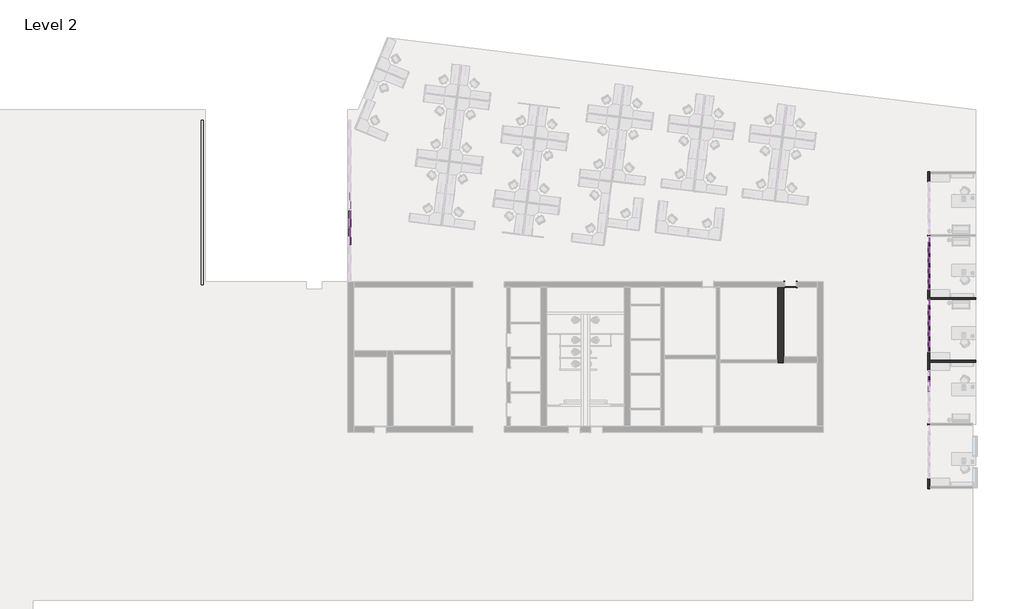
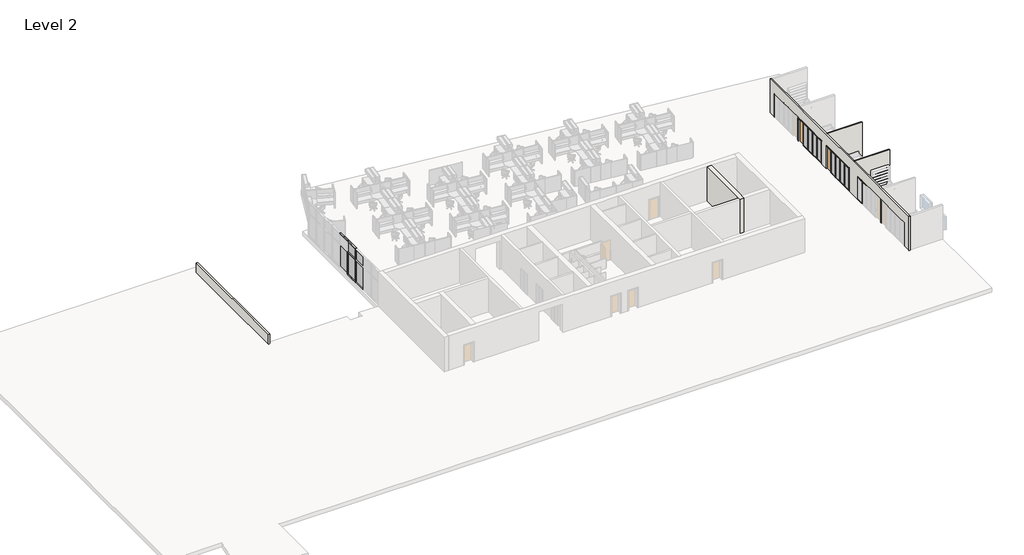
# One storey, part 3 of 7: 63 members, 23 plates, 7 walls, 3 doors.
"""IFC4 building model written with IfcOpenShell, lengths in millimetres."""

from ifc_helpers import new_model, si_unit, frame, origin, place, context, project, spatial, polyline, outline, extrude, faceted_brep, transform, mapped, element, save
from components import curtain_wall_sgl_glass_curtain_wall_sgl_glass_683140d0, door_3c99239a, member_9597caa3, member_b2bde9e6, member_7ffbafd8, member_47ea2df9, member_5507c937, member_0e55f5ff, member_ee409385, member_6d48148e, member_7899ddbe, member_c64c2408, member_866a01fa, member_13474e0d, system_panel_glazed_8093bbd9, system_panel_glazed_50fd444c, system_panel_glazed_f79f5f4b, system_panel_glazed_e5c5d69c

model = new_model("IFC4")

# Units and contexts
model_context = context("Model", 3, world=origin())
ifc_project = project(units=[si_unit("LENGTHUNIT", "METRE", prefix="MILLI")], contexts=[model_context])

# Site, building, storey
site = spatial("IfcSite", under=ifc_project)
building = spatial("IfcBuilding", under=site)
storey = spatial("IfcBuildingStorey", under=building, Name="Level 2", Elevation=3657.6)

# Doors
placement = place(None, origin())
curtain_wall_sgl_glass_curtain_wall_sgl_glass_shape = curtain_wall_sgl_glass_curtain_wall_sgl_glass_683140d0(model_context)
element("IfcDoor", 1, ObjectType="Curtain Wall Sgl Glass : Curtain Wall Sgl Glass", at=placement, inside=storey, context=model_context, shape_type="MappedRepresentation", body=[
    mapped(curtain_wall_sgl_glass_curtain_wall_sgl_glass_shape, transform((11449.2054088, -211.6299475, 3657.6), x_axis=(0.0, 1.0, 0.0), y_axis=(-1.0, 0.0, 0.0), z_axis=(0.0, 0.0, 1.0))),
])
element("IfcDoor", 2, ObjectType="Curtain Wall Sgl Glass : Curtain Wall Sgl Glass", at=placement, inside=storey, context=model_context, shape_type="MappedRepresentation", body=[
    mapped(curtain_wall_sgl_glass_curtain_wall_sgl_glass_shape, transform((11449.2054088, -5046.1342481, 3657.6), x_axis=(0.0, 1.0, 0.0), y_axis=(-1.0, 0.0, 0.0), z_axis=(0.0, 0.0, 1.0))),
])
door_shape = door_3c99239a(model_context)
element("IfcDoor", 3, ObjectType="Single-Flush : 36\" x 84\"", at=placement, inside=storey, context=model_context, shape_type="MappedRepresentation", body=[
    mapped(door_shape, transform((817.7000645, -3469.6103492, 3657.6), x_axis=(-1.0, 0.0, 0.0), y_axis=(0.0, -1.0, 0.0), z_axis=(0.0, 0.0, 1.0))),
])

# Members
member_shape = member_9597caa3(model_context)
element("IfcMember", 4, ObjectType="Rectangular Mullion : 2.5\" x 5\" rectangular", at=placement, inside=storey, context=model_context, shape_type="MappedRepresentation", body=[
    mapped(member_shape, transform((11449.2054088, -10900.0628492, 3721.1), x_axis=(0.0, 1.0, 0.0), y_axis=(1.0, 0.0, 0.0), z_axis=(0.0, 0.0, -1.0))),
])
element("IfcMember", 5, ObjectType="Rectangular Mullion : 2.5\" x 5\" rectangular", at=placement, inside=storey, context=model_context, shape_type="MappedRepresentation", body=[
    mapped(member_shape, transform((-33055.0142212, 2267.9674286, 3721.1), x_axis=(0.0, -1.0, 0.0), y_axis=(-1.0, 0.0, 0.0), z_axis=(0.0, 0.0, -1.0))),
])
element("IfcMember", 6, ObjectType="Rectangular Mullion : 2.5\" x 5\" rectangular", at=placement, inside=storey, context=model_context, shape_type="MappedRepresentation", body=[
    mapped(member_shape, transform((-33055.0142212, 890.7229841, 3721.1), x_axis=(0.0, -1.0, 0.0), y_axis=(-1.0, 0.0, 0.0), z_axis=(0.0, 0.0, -1.0))),
])
element("IfcMember", 7, ObjectType="Rectangular Mullion : 2.5\" x 5\" rectangular", at=placement, inside=storey, context=model_context, shape_type="MappedRepresentation", body=[
    mapped(member_shape, transform((11449.2054088, -612.9499475, 3721.1), x_axis=(0.0, -1.0, 0.0), y_axis=(-1.0, 0.0, 0.0), z_axis=(0.0, 0.0, -1.0))),
])
element("IfcMember", 8, ObjectType="Rectangular Mullion : 2.5\" x 5\" rectangular", at=placement, inside=storey, context=model_context, shape_type="MappedRepresentation", body=[
    mapped(member_shape, transform((11449.2054088, -1415.5899475, 3721.1), x_axis=(0.0, -1.0, 0.0), y_axis=(-1.0, 0.0, 0.0), z_axis=(0.0, 0.0, -1.0))),
])
element("IfcMember", 9, ObjectType="Rectangular Mullion : 2.5\" x 5\" rectangular", at=placement, inside=storey, context=model_context, shape_type="MappedRepresentation", body=[
    mapped(member_shape, transform((11449.2054088, -2218.2299475, 3721.1), x_axis=(0.0, -1.0, 0.0), y_axis=(-1.0, 0.0, 0.0), z_axis=(0.0, 0.0, -1.0))),
])
element("IfcMember", 10, ObjectType="Rectangular Mullion : 2.5\" x 5\" rectangular", at=placement, inside=storey, context=model_context, shape_type="MappedRepresentation", body=[
    mapped(member_shape, transform((11449.2054088, -3020.8699475, 3721.1), x_axis=(0.0, -1.0, 0.0), y_axis=(-1.0, 0.0, 0.0), z_axis=(0.0, 0.0, -1.0))),
])
element("IfcMember", 11, ObjectType="Rectangular Mullion : 2.5\" x 5\" rectangular", at=placement, inside=storey, context=model_context, shape_type="MappedRepresentation", body=[
    mapped(member_shape, transform((11449.2054088, -5447.4542481, 3721.1), x_axis=(0.0, -1.0, 0.0), y_axis=(-1.0, 0.0, 0.0), z_axis=(0.0, 0.0, -1.0))),
])
element("IfcMember", 12, ObjectType="Rectangular Mullion : 2.5\" x 5\" rectangular", at=placement, inside=storey, context=model_context, shape_type="MappedRepresentation", body=[
    mapped(member_shape, transform((11449.2054088, -6250.0942481, 3721.1), x_axis=(0.0, -1.0, 0.0), y_axis=(-1.0, 0.0, 0.0), z_axis=(0.0, 0.0, -1.0))),
])
element("IfcMember", 13, ObjectType="Rectangular Mullion : 2.5\" x 5\" rectangular", at=placement, inside=storey, context=model_context, shape_type="MappedRepresentation", body=[
    mapped(member_shape, transform((11449.2054088, -7052.7342481, 3721.1), x_axis=(0.0, -1.0, 0.0), y_axis=(-1.0, 0.0, 0.0), z_axis=(0.0, 0.0, -1.0))),
])
element("IfcMember", 14, ObjectType="Rectangular Mullion : 2.5\" x 5\" rectangular", at=placement, inside=storey, context=model_context, shape_type="MappedRepresentation", body=[
    mapped(member_shape, transform((11449.2054088, -7855.3742481, 3721.1), x_axis=(0.0, -1.0, 0.0), y_axis=(-1.0, 0.0, 0.0), z_axis=(0.0, 0.0, -1.0))),
])
member_2_shape = member_b2bde9e6(model_context)
element("IfcMember", 15, ObjectType="Rectangular Mullion : 2.5\" x 5\" rectangular", at=placement, inside=storey, context=model_context, shape_type="MappedRepresentation", body=[
    mapped(member_2_shape, transform((11449.2054088, -3855.2599475, 3721.1), x_axis=(0.0, -1.0, 0.0), y_axis=(-1.0, 0.0, 0.0), z_axis=(0.0, 0.0, -1.0))),
])
element("IfcMember", 16, ObjectType="Rectangular Mullion : 2.5\" x 5\" rectangular", at=placement, inside=storey, context=model_context, shape_type="MappedRepresentation", body=[
    mapped(member_2_shape, transform((11449.2054088, -8689.7642481, 3721.1), x_axis=(0.0, -1.0, 0.0), y_axis=(-1.0, 0.0, 0.0), z_axis=(0.0, 0.0, -1.0))),
])
member_3_shape = member_7ffbafd8(model_context)
element("IfcMember", 17, ObjectType="Rectangular Mullion : 2.5\" x 5\" rectangular", at=placement, inside=storey, context=model_context, shape_type="MappedRepresentation", body=[
    mapped(member_3_shape, transform((11449.2054088, -3855.2599475, 6197.6), x_axis=(0.0, 0.0, 1.0), y_axis=(-1.0, 0.0, 0.0), z_axis=(0.0, -1.0, 0.0))),
])
element("IfcMember", 18, ObjectType="Rectangular Mullion : 2.5\" x 5\" rectangular", at=placement, inside=storey, context=model_context, shape_type="MappedRepresentation", body=[
    mapped(member_3_shape, transform((11449.2054088, -8689.7642481, 6197.6), x_axis=(0.0, 0.0, 1.0), y_axis=(-1.0, 0.0, 0.0), z_axis=(0.0, -1.0, 0.0))),
])
element("IfcMember", 19, ObjectType="Rectangular Mullion : 2.5\" x 5\" rectangular", at=placement, inside=storey, context=model_context, shape_type="MappedRepresentation", body=[
    mapped(member_3_shape, transform((11449.2054088, -612.9499475, 6197.6), x_axis=(0.0, 0.0, 1.0), y_axis=(-1.0, 0.0, 0.0), z_axis=(0.0, -1.0, 0.0))),
])
element("IfcMember", 20, ObjectType="Rectangular Mullion : 2.5\" x 5\" rectangular", at=placement, inside=storey, context=model_context, shape_type="MappedRepresentation", body=[
    mapped(member_3_shape, transform((11449.2054088, -5447.4542481, 6197.6), x_axis=(0.0, 0.0, 1.0), y_axis=(-1.0, 0.0, 0.0), z_axis=(0.0, -1.0, 0.0))),
])
element("IfcMember", 21, ObjectType="Rectangular Mullion : 2.5\" x 5\" rectangular", at=placement, inside=storey, context=model_context, shape_type="MappedRepresentation", body=[
    mapped(member_3_shape, transform((11449.2054088, -581.1999475, 3657.6), x_axis=(0.0, 0.0, -1.0), y_axis=(-1.0, 0.0, 0.0), z_axis=(0.0, 1.0, 0.0))),
])
element("IfcMember", 22, ObjectType="Rectangular Mullion : 2.5\" x 5\" rectangular", at=placement, inside=storey, context=model_context, shape_type="MappedRepresentation", body=[
    mapped(member_3_shape, transform((11449.2054088, -5415.7042481, 3657.6), x_axis=(0.0, 0.0, -1.0), y_axis=(-1.0, 0.0, 0.0), z_axis=(0.0, 1.0, 0.0))),
])
member_4_shape = member_47ea2df9(model_context)
element("IfcMember", 23, ObjectType="Rectangular Mullion : 2.5\" x 5\" rectangular", at=placement, inside=storey, context=model_context, shape_type="MappedRepresentation", body=[
    mapped(member_4_shape, transform((11449.2054088, -1415.5899475, 6096.0), x_axis=(0.0, 0.0, 1.0), y_axis=(-1.0, 0.0, 0.0), z_axis=(0.0, -1.0, 0.0))),
])
element("IfcMember", 24, ObjectType="Rectangular Mullion : 2.5\" x 5\" rectangular", at=placement, inside=storey, context=model_context, shape_type="MappedRepresentation", body=[
    mapped(member_4_shape, transform((11449.2054088, -2218.2299475, 6096.0), x_axis=(0.0, 0.0, 1.0), y_axis=(-1.0, 0.0, 0.0), z_axis=(0.0, -1.0, 0.0))),
])
element("IfcMember", 25, ObjectType="Rectangular Mullion : 2.5\" x 5\" rectangular", at=placement, inside=storey, context=model_context, shape_type="MappedRepresentation", body=[
    mapped(member_4_shape, transform((11449.2054088, -3020.8699475, 6096.0), x_axis=(0.0, 0.0, 1.0), y_axis=(-1.0, 0.0, 0.0), z_axis=(0.0, -1.0, 0.0))),
])
element("IfcMember", 26, ObjectType="Rectangular Mullion : 2.5\" x 5\" rectangular", at=placement, inside=storey, context=model_context, shape_type="MappedRepresentation", body=[
    mapped(member_4_shape, transform((11449.2054088, -6250.0942481, 6096.0), x_axis=(0.0, 0.0, 1.0), y_axis=(-1.0, 0.0, 0.0), z_axis=(0.0, -1.0, 0.0))),
])
element("IfcMember", 27, ObjectType="Rectangular Mullion : 2.5\" x 5\" rectangular", at=placement, inside=storey, context=model_context, shape_type="MappedRepresentation", body=[
    mapped(member_4_shape, transform((11449.2054088, -7052.7342481, 6096.0), x_axis=(0.0, 0.0, 1.0), y_axis=(-1.0, 0.0, 0.0), z_axis=(0.0, -1.0, 0.0))),
])
element("IfcMember", 28, ObjectType="Rectangular Mullion : 2.5\" x 5\" rectangular", at=placement, inside=storey, context=model_context, shape_type="MappedRepresentation", body=[
    mapped(member_4_shape, transform((11449.2054088, -7855.3742481, 6096.0), x_axis=(0.0, 0.0, 1.0), y_axis=(-1.0, 0.0, 0.0), z_axis=(0.0, -1.0, 0.0))),
])
member_5_shape = member_5507c937(model_context)
element("IfcMember", 29, ObjectType="Rectangular Mullion : 2.5\" x 5\" rectangular", at=placement, inside=storey, context=model_context, shape_type="MappedRepresentation", body=[
    mapped(member_5_shape, transform((11449.2054088, -1415.5899475, 6197.6), x_axis=(0.0, 0.0, 1.0), y_axis=(-1.0, 0.0, 0.0), z_axis=(0.0, -1.0, 0.0))),
])
element("IfcMember", 30, ObjectType="Rectangular Mullion : 2.5\" x 5\" rectangular", at=placement, inside=storey, context=model_context, shape_type="MappedRepresentation", body=[
    mapped(member_5_shape, transform((11449.2054088, -2218.2299475, 6197.6), x_axis=(0.0, 0.0, 1.0), y_axis=(-1.0, 0.0, 0.0), z_axis=(0.0, -1.0, 0.0))),
])
element("IfcMember", 31, ObjectType="Rectangular Mullion : 2.5\" x 5\" rectangular", at=placement, inside=storey, context=model_context, shape_type="MappedRepresentation", body=[
    mapped(member_5_shape, transform((11449.2054088, -3020.8699475, 6197.6), x_axis=(0.0, 0.0, 1.0), y_axis=(-1.0, 0.0, 0.0), z_axis=(0.0, -1.0, 0.0))),
])
element("IfcMember", 32, ObjectType="Rectangular Mullion : 2.5\" x 5\" rectangular", at=placement, inside=storey, context=model_context, shape_type="MappedRepresentation", body=[
    mapped(member_5_shape, transform((11449.2054088, -6250.0942481, 6197.6), x_axis=(0.0, 0.0, 1.0), y_axis=(-1.0, 0.0, 0.0), z_axis=(0.0, -1.0, 0.0))),
])
element("IfcMember", 33, ObjectType="Rectangular Mullion : 2.5\" x 5\" rectangular", at=placement, inside=storey, context=model_context, shape_type="MappedRepresentation", body=[
    mapped(member_5_shape, transform((11449.2054088, -7052.7342481, 6197.6), x_axis=(0.0, 0.0, 1.0), y_axis=(-1.0, 0.0, 0.0), z_axis=(0.0, -1.0, 0.0))),
])
element("IfcMember", 34, ObjectType="Rectangular Mullion : 2.5\" x 5\" rectangular", at=placement, inside=storey, context=model_context, shape_type="MappedRepresentation", body=[
    mapped(member_5_shape, transform((11449.2054088, -7855.3742481, 6197.6), x_axis=(0.0, 0.0, 1.0), y_axis=(-1.0, 0.0, 0.0), z_axis=(0.0, -1.0, 0.0))),
])
element("IfcMember", 35, ObjectType="Rectangular Mullion : 2.5\" x 5\" rectangular", at=placement, inside=storey, context=model_context, shape_type="MappedRepresentation", body=[
    mapped(member_5_shape, transform((11449.2054088, -1415.5899475, 3657.6), x_axis=(0.0, 0.0, -1.0), y_axis=(-1.0, 0.0, 0.0), z_axis=(0.0, 1.0, 0.0))),
])
element("IfcMember", 36, ObjectType="Rectangular Mullion : 2.5\" x 5\" rectangular", at=placement, inside=storey, context=model_context, shape_type="MappedRepresentation", body=[
    mapped(member_5_shape, transform((11449.2054088, -2218.2299475, 3657.6), x_axis=(0.0, 0.0, -1.0), y_axis=(-1.0, 0.0, 0.0), z_axis=(0.0, 1.0, 0.0))),
])
element("IfcMember", 37, ObjectType="Rectangular Mullion : 2.5\" x 5\" rectangular", at=placement, inside=storey, context=model_context, shape_type="MappedRepresentation", body=[
    mapped(member_5_shape, transform((11449.2054088, -6250.0942481, 3657.6), x_axis=(0.0, 0.0, -1.0), y_axis=(-1.0, 0.0, 0.0), z_axis=(0.0, 1.0, 0.0))),
])
element("IfcMember", 38, ObjectType="Rectangular Mullion : 2.5\" x 5\" rectangular", at=placement, inside=storey, context=model_context, shape_type="MappedRepresentation", body=[
    mapped(member_5_shape, transform((11449.2054088, -7052.7342481, 3657.6), x_axis=(0.0, 0.0, -1.0), y_axis=(-1.0, 0.0, 0.0), z_axis=(0.0, 1.0, 0.0))),
])
element("IfcMember", 39, ObjectType="Rectangular Mullion : 2.5\" x 5\" rectangular", at=placement, inside=storey, context=model_context, shape_type="MappedRepresentation", body=[
    mapped(member_3_shape, transform((11449.2054088, -3020.8699475, 3657.6), x_axis=(0.0, 0.0, -1.0), y_axis=(-1.0, 0.0, 0.0), z_axis=(0.0, 1.0, 0.0))),
])
element("IfcMember", 40, ObjectType="Rectangular Mullion : 2.5\" x 5\" rectangular", at=placement, inside=storey, context=model_context, shape_type="MappedRepresentation", body=[
    mapped(member_3_shape, transform((11449.2054088, -7855.3742481, 3657.6), x_axis=(0.0, 0.0, -1.0), y_axis=(-1.0, 0.0, 0.0), z_axis=(0.0, 1.0, 0.0))),
])
member_6_shape = member_0e55f5ff(model_context)
element("IfcMember", 41, ObjectType="Rectangular Mullion : 2.5\" x 5\" rectangular", at=placement, inside=storey, context=model_context, shape_type="MappedRepresentation", body=[
    mapped(member_6_shape, transform((11449.2054088, -3791.7599475, 6096.0), x_axis=(0.0, 0.0, 1.0), y_axis=(-1.0, 0.0, 0.0), z_axis=(0.0, -1.0, 0.0))),
])
element("IfcMember", 42, ObjectType="Rectangular Mullion : 2.5\" x 5\" rectangular", at=placement, inside=storey, context=model_context, shape_type="MappedRepresentation", body=[
    mapped(member_6_shape, transform((11449.2054088, -8626.2642481, 6096.0), x_axis=(0.0, 0.0, 1.0), y_axis=(-1.0, 0.0, 0.0), z_axis=(0.0, -1.0, 0.0))),
])
element("IfcMember", 43, ObjectType="Rectangular Mullion : 2.5\" x 5\" rectangular", at=placement, inside=storey, context=model_context, shape_type="MappedRepresentation", body=[
    mapped(member_6_shape, transform((11449.2054088, -612.9499475, 6096.0), x_axis=(0.0, 0.0, 1.0), y_axis=(-1.0, 0.0, 0.0), z_axis=(0.0, -1.0, 0.0))),
])
element("IfcMember", 44, ObjectType="Rectangular Mullion : 2.5\" x 5\" rectangular", at=placement, inside=storey, context=model_context, shape_type="MappedRepresentation", body=[
    mapped(member_6_shape, transform((11449.2054088, -5447.4542481, 6096.0), x_axis=(0.0, 0.0, 1.0), y_axis=(-1.0, 0.0, 0.0), z_axis=(0.0, -1.0, 0.0))),
])
member_7_shape = member_ee409385(model_context)
element("IfcMember", 45, ObjectType="Rectangular Mullion : 2.5\" x 5\" rectangular", at=placement, inside=storey, context=model_context, shape_type="MappedRepresentation", body=[
    mapped(member_7_shape, transform((11449.2054088, -4613.0642481, 6096.0), x_axis=(0.0, 1.0, 0.0), y_axis=(-1.0, 0.0, 0.0), z_axis=(0.0, 0.0, 1.0))),
])
element("IfcMember", 46, ObjectType="Rectangular Mullion : 2.5\" x 5\" rectangular", at=placement, inside=storey, context=model_context, shape_type="MappedRepresentation", body=[
    mapped(member_4_shape, transform((11449.2054088, -10900.0628492, 6096.0), x_axis=(0.0, 0.0, 1.0), y_axis=(1.0, 0.0, 0.0), z_axis=(0.0, 1.0, 0.0))),
])
element("IfcMember", 47, ObjectType="Rectangular Mullion : 2.5\" x 5\" rectangular", at=placement, inside=storey, context=model_context, shape_type="MappedRepresentation", body=[
    mapped(member_3_shape, transform((11449.2054088, -10900.0628492, 3657.6), x_axis=(0.0, 0.0, -1.0), y_axis=(1.0, 0.0, 0.0), z_axis=(0.0, -1.0, 0.0))),
])
element("IfcMember", 48, ObjectType="Rectangular Mullion : 2.5\" x 5\" rectangular", at=placement, inside=storey, context=model_context, shape_type="MappedRepresentation", body=[
    mapped(member_6_shape, transform((11449.2054088, -10129.1728492, 6096.0), x_axis=(0.0, 0.0, 1.0), y_axis=(1.0, 0.0, 0.0), z_axis=(0.0, 1.0, 0.0))),
])
member_8_shape = member_6d48148e(model_context)
element("IfcMember", 49, ObjectType="Rectangular Mullion : 2.5\" x 5\" rectangular", at=placement, inside=storey, context=model_context, shape_type="MappedRepresentation", body=[
    mapped(member_8_shape, transform((11449.2054088, -10900.0628492, 6127.75), x_axis=(0.0, 1.0, 0.0), y_axis=(1.0, 0.0, 0.0), z_axis=(0.0, 0.0, -1.0))),
])
element("IfcMember", 50, ObjectType="Rectangular Mullion : 2.5\" x 5\" rectangular", at=placement, inside=storey, context=model_context, shape_type="MappedRepresentation", body=[
    mapped(member_8_shape, transform((11449.2054088, -612.9499475, 6127.75), x_axis=(0.0, -1.0, 0.0), y_axis=(-1.0, 0.0, 0.0), z_axis=(0.0, 0.0, -1.0))),
])
element("IfcMember", 51, ObjectType="Rectangular Mullion : 2.5\" x 5\" rectangular", at=placement, inside=storey, context=model_context, shape_type="MappedRepresentation", body=[
    mapped(member_8_shape, transform((11449.2054088, -1415.5899475, 6127.75), x_axis=(0.0, -1.0, 0.0), y_axis=(-1.0, 0.0, 0.0), z_axis=(0.0, 0.0, -1.0))),
])
element("IfcMember", 52, ObjectType="Rectangular Mullion : 2.5\" x 5\" rectangular", at=placement, inside=storey, context=model_context, shape_type="MappedRepresentation", body=[
    mapped(member_8_shape, transform((11449.2054088, -2218.2299475, 6127.75), x_axis=(0.0, -1.0, 0.0), y_axis=(-1.0, 0.0, 0.0), z_axis=(0.0, 0.0, -1.0))),
])
element("IfcMember", 53, ObjectType="Rectangular Mullion : 2.5\" x 5\" rectangular", at=placement, inside=storey, context=model_context, shape_type="MappedRepresentation", body=[
    mapped(member_8_shape, transform((11449.2054088, -3020.8699475, 6127.75), x_axis=(0.0, -1.0, 0.0), y_axis=(-1.0, 0.0, 0.0), z_axis=(0.0, 0.0, -1.0))),
])
element("IfcMember", 54, ObjectType="Rectangular Mullion : 2.5\" x 5\" rectangular", at=placement, inside=storey, context=model_context, shape_type="MappedRepresentation", body=[
    mapped(member_8_shape, transform((11449.2054088, -5447.4542481, 6127.75), x_axis=(0.0, -1.0, 0.0), y_axis=(-1.0, 0.0, 0.0), z_axis=(0.0, 0.0, -1.0))),
])
element("IfcMember", 55, ObjectType="Rectangular Mullion : 2.5\" x 5\" rectangular", at=placement, inside=storey, context=model_context, shape_type="MappedRepresentation", body=[
    mapped(member_8_shape, transform((11449.2054088, -6250.0942481, 6127.75), x_axis=(0.0, -1.0, 0.0), y_axis=(-1.0, 0.0, 0.0), z_axis=(0.0, 0.0, -1.0))),
])
element("IfcMember", 56, ObjectType="Rectangular Mullion : 2.5\" x 5\" rectangular", at=placement, inside=storey, context=model_context, shape_type="MappedRepresentation", body=[
    mapped(member_8_shape, transform((11449.2054088, -7052.7342481, 6127.75), x_axis=(0.0, -1.0, 0.0), y_axis=(-1.0, 0.0, 0.0), z_axis=(0.0, 0.0, -1.0))),
])
element("IfcMember", 57, ObjectType="Rectangular Mullion : 2.5\" x 5\" rectangular", at=placement, inside=storey, context=model_context, shape_type="MappedRepresentation", body=[
    mapped(member_8_shape, transform((11449.2054088, -7855.3742481, 6127.75), x_axis=(0.0, -1.0, 0.0), y_axis=(-1.0, 0.0, 0.0), z_axis=(0.0, 0.0, -1.0))),
])
member_9_shape = member_7899ddbe(model_context)
element("IfcMember", 58, ObjectType="Rectangular Mullion : 2.5\" x 5\" rectangular", at=placement, inside=storey, context=model_context, shape_type="MappedRepresentation", body=[
    mapped(member_9_shape, transform((11449.2054088, -3855.2599475, 6096.0), x_axis=(0.0, -1.0, 0.0), y_axis=(-1.0, 0.0, 0.0), z_axis=(0.0, 0.0, -1.0))),
])
element("IfcMember", 59, ObjectType="Rectangular Mullion : 2.5\" x 5\" rectangular", at=placement, inside=storey, context=model_context, shape_type="MappedRepresentation", body=[
    mapped(member_9_shape, transform((11449.2054088, -8689.7642481, 6096.0), x_axis=(0.0, -1.0, 0.0), y_axis=(-1.0, 0.0, 0.0), z_axis=(0.0, 0.0, -1.0))),
])
element("IfcMember", 60, ObjectType="Rectangular Mullion : 2.5\" x 5\" rectangular", at=placement, inside=storey, context=model_context, shape_type="MappedRepresentation", body=[
    mapped(member_9_shape, transform((11449.2054088, -4613.0642481, 6134.1), x_axis=(0.0, 1.0, 0.0), y_axis=(-1.0, 0.0, 0.0), z_axis=(0.0, 0.0, 1.0))),
])
member_10_shape = member_c64c2408(model_context)
element("IfcMember", 61, ObjectType="Rectangular Mullion : 2.5\" x 5\" rectangular", at=placement, inside=storey, context=model_context, shape_type="MappedRepresentation", body=[
    mapped(member_10_shape, transform((-33055.0142212, 2267.9674286, 7315.2), x_axis=(0.0, 0.0, 1.0), y_axis=(-1.0, 0.0, 0.0), z_axis=(0.0, -1.0, 0.0))),
])
element("IfcMember", 62, ObjectType="Rectangular Mullion : 2.5\" x 5\" rectangular", at=placement, inside=storey, context=model_context, shape_type="MappedRepresentation", body=[
    mapped(member_10_shape, transform((-33055.0142212, 890.7229841, 7315.2), x_axis=(0.0, 0.0, 1.0), y_axis=(-1.0, 0.0, 0.0), z_axis=(0.0, -1.0, 0.0))),
])
element("IfcMember", 63, ObjectType="Rectangular Mullion : 2.5\" x 5\" rectangular", at=placement, inside=storey, context=model_context, shape_type="MappedRepresentation", body=[
    mapped(member_10_shape, transform((-33055.0142212, 2267.9674286, 3657.6), x_axis=(0.0, 0.0, -1.0), y_axis=(-1.0, 0.0, 0.0), z_axis=(0.0, 1.0, 0.0))),
])
element("IfcMember", 64, ObjectType="Rectangular Mullion : 2.5\" x 5\" rectangular", at=placement, inside=storey, context=model_context, shape_type="MappedRepresentation", body=[
    mapped(member_10_shape, transform((-33055.0142212, 890.7229841, 3657.6), x_axis=(0.0, 0.0, -1.0), y_axis=(-1.0, 0.0, 0.0), z_axis=(0.0, 1.0, 0.0))),
])
member_11_shape = member_866a01fa(model_context)
element("IfcMember", 65, ObjectType="Rectangular Mullion : 2.5\" x 5\" rectangular", at=placement, inside=storey, context=model_context, shape_type="MappedRepresentation", body=[
    mapped(member_11_shape, transform((-33055.0142212, 890.7229841, 6127.75), x_axis=(0.0, -1.0, 0.0), y_axis=(-1.0, 0.0, 0.0), z_axis=(0.0, 0.0, -1.0))),
])
member_12_shape = member_13474e0d(model_context)
element("IfcMember", 66, ObjectType="Rectangular Mullion : 2.5\" x 5\" rectangular", at=placement, inside=storey, context=model_context, shape_type="MappedRepresentation", body=[
    mapped(member_12_shape, transform((-33055.0142212, 890.7229841, 6096.0), x_axis=(0.0, 0.0, 1.0), y_axis=(-1.0, 0.0, 0.0), z_axis=(0.0, -1.0, 0.0))),
])

# Plates
system_panel_glazed_shape = system_panel_glazed_8093bbd9(model_context)
element("IfcPlate", 67, ObjectType="System Panel : Glazed", at=placement, inside=storey, context=model_context, shape_type="MappedRepresentation", body=[
    mapped(system_panel_glazed_shape, transform((11449.2054088, -1014.2699475, 3721.1), x_axis=(0.0, -1.0, 0.0), y_axis=(1.0, 0.0, 0.0), z_axis=(0.0, 0.0, 1.0))),
])
element("IfcPlate", 68, ObjectType="System Panel : Glazed", at=placement, inside=storey, context=model_context, shape_type="MappedRepresentation", body=[
    mapped(system_panel_glazed_shape, transform((11449.2054088, -1816.9099475, 3721.1), x_axis=(0.0, -1.0, 0.0), y_axis=(1.0, 0.0, 0.0), z_axis=(0.0, 0.0, 1.0))),
])
element("IfcPlate", 69, ObjectType="System Panel : Glazed", at=placement, inside=storey, context=model_context, shape_type="MappedRepresentation", body=[
    mapped(system_panel_glazed_shape, transform((11449.2054088, -2619.5499475, 3721.1), x_axis=(0.0, -1.0, 0.0), y_axis=(1.0, 0.0, 0.0), z_axis=(0.0, 0.0, 1.0))),
])
element("IfcPlate", 70, ObjectType="System Panel : Glazed", at=placement, inside=storey, context=model_context, shape_type="MappedRepresentation", body=[
    mapped(system_panel_glazed_shape, transform((11449.2054088, -3422.1899475, 3721.1), x_axis=(0.0, -1.0, 0.0), y_axis=(1.0, 0.0, 0.0), z_axis=(0.0, 0.0, 1.0))),
])
element("IfcPlate", 71, ObjectType="System Panel : Glazed", at=placement, inside=storey, context=model_context, shape_type="MappedRepresentation", body=[
    mapped(system_panel_glazed_shape, transform((11449.2054088, -5848.7742481, 3721.1), x_axis=(0.0, -1.0, 0.0), y_axis=(1.0, 0.0, 0.0), z_axis=(0.0, 0.0, 1.0))),
])
element("IfcPlate", 72, ObjectType="System Panel : Glazed", at=placement, inside=storey, context=model_context, shape_type="MappedRepresentation", body=[
    mapped(system_panel_glazed_shape, transform((11449.2054088, -6651.4142481, 3721.1), x_axis=(0.0, -1.0, 0.0), y_axis=(1.0, 0.0, 0.0), z_axis=(0.0, 0.0, 1.0))),
])
element("IfcPlate", 73, ObjectType="System Panel : Glazed", at=placement, inside=storey, context=model_context, shape_type="MappedRepresentation", body=[
    mapped(system_panel_glazed_shape, transform((11449.2054088, -7454.0542481, 3721.1), x_axis=(0.0, -1.0, 0.0), y_axis=(1.0, 0.0, 0.0), z_axis=(0.0, 0.0, 1.0))),
])
element("IfcPlate", 74, ObjectType="System Panel : Glazed", at=placement, inside=storey, context=model_context, shape_type="MappedRepresentation", body=[
    mapped(system_panel_glazed_shape, transform((11449.2054088, -8256.6942481, 3721.1), x_axis=(0.0, -1.0, 0.0), y_axis=(1.0, 0.0, 0.0), z_axis=(0.0, 0.0, 1.0))),
])
system_panel_glazed_2_shape = system_panel_glazed_50fd444c(model_context)
element("IfcPlate", 75, ObjectType="System Panel : Glazed", at=placement, inside=storey, context=model_context, shape_type="MappedRepresentation", body=[
    mapped(system_panel_glazed_2_shape, transform((11449.2054088, -211.6299475, 6127.75), x_axis=(0.0, -1.0, 0.0), y_axis=(1.0, 0.0, 0.0), z_axis=(0.0, 0.0, 1.0))),
])
element("IfcPlate", 76, ObjectType="System Panel : Glazed", at=placement, inside=storey, context=model_context, shape_type="MappedRepresentation", body=[
    mapped(system_panel_glazed_2_shape, transform((11449.2054088, -1014.2699475, 6127.75), x_axis=(0.0, -1.0, 0.0), y_axis=(1.0, 0.0, 0.0), z_axis=(0.0, 0.0, 1.0))),
])
element("IfcPlate", 77, ObjectType="System Panel : Glazed", at=placement, inside=storey, context=model_context, shape_type="MappedRepresentation", body=[
    mapped(system_panel_glazed_2_shape, transform((11449.2054088, -1816.9099475, 6127.75), x_axis=(0.0, -1.0, 0.0), y_axis=(1.0, 0.0, 0.0), z_axis=(0.0, 0.0, 1.0))),
])
element("IfcPlate", 78, ObjectType="System Panel : Glazed", at=placement, inside=storey, context=model_context, shape_type="MappedRepresentation", body=[
    mapped(system_panel_glazed_2_shape, transform((11449.2054088, -2619.5499475, 6127.75), x_axis=(0.0, -1.0, 0.0), y_axis=(1.0, 0.0, 0.0), z_axis=(0.0, 0.0, 1.0))),
])
element("IfcPlate", 79, ObjectType="System Panel : Glazed", at=placement, inside=storey, context=model_context, shape_type="MappedRepresentation", body=[
    mapped(system_panel_glazed_2_shape, transform((11449.2054088, -3422.1899475, 6127.75), x_axis=(0.0, -1.0, 0.0), y_axis=(1.0, 0.0, 0.0), z_axis=(0.0, 0.0, 1.0))),
])
element("IfcPlate", 80, ObjectType="System Panel : Glazed", at=placement, inside=storey, context=model_context, shape_type="MappedRepresentation", body=[
    mapped(system_panel_glazed_2_shape, transform((11449.2054088, -5046.1342481, 6127.75), x_axis=(0.0, -1.0, 0.0), y_axis=(1.0, 0.0, 0.0), z_axis=(0.0, 0.0, 1.0))),
])
element("IfcPlate", 81, ObjectType="System Panel : Glazed", at=placement, inside=storey, context=model_context, shape_type="MappedRepresentation", body=[
    mapped(system_panel_glazed_2_shape, transform((11449.2054088, -5848.7742481, 6127.75), x_axis=(0.0, -1.0, 0.0), y_axis=(1.0, 0.0, 0.0), z_axis=(0.0, 0.0, 1.0))),
])
element("IfcPlate", 82, ObjectType="System Panel : Glazed", at=placement, inside=storey, context=model_context, shape_type="MappedRepresentation", body=[
    mapped(system_panel_glazed_2_shape, transform((11449.2054088, -6651.4142481, 6127.75), x_axis=(0.0, -1.0, 0.0), y_axis=(1.0, 0.0, 0.0), z_axis=(0.0, 0.0, 1.0))),
])
element("IfcPlate", 83, ObjectType="System Panel : Glazed", at=placement, inside=storey, context=model_context, shape_type="MappedRepresentation", body=[
    mapped(system_panel_glazed_2_shape, transform((11449.2054088, -7454.0542481, 6127.75), x_axis=(0.0, -1.0, 0.0), y_axis=(1.0, 0.0, 0.0), z_axis=(0.0, 0.0, 1.0))),
])
element("IfcPlate", 84, ObjectType="System Panel : Glazed", at=placement, inside=storey, context=model_context, shape_type="MappedRepresentation", body=[
    mapped(system_panel_glazed_2_shape, transform((11449.2054088, -8256.6942481, 6127.75), x_axis=(0.0, -1.0, 0.0), y_axis=(1.0, 0.0, 0.0), z_axis=(0.0, 0.0, 1.0))),
])
system_panel_glazed_3_shape = system_panel_glazed_f79f5f4b(model_context)
element("IfcPlate", 85, ObjectType="System Panel : Glazed", at=placement, inside=storey, context=model_context, shape_type="MappedRepresentation", body=[
    mapped(system_panel_glazed_3_shape, transform((-33055.0142212, 2956.5896508, 3721.1), x_axis=(0.0, -1.0, 0.0), y_axis=(1.0, 0.0, 0.0), z_axis=(0.0, 0.0, 1.0))),
])
element("IfcPlate", 86, ObjectType="System Panel : Glazed", at=placement, inside=storey, context=model_context, shape_type="MappedRepresentation", body=[
    mapped(system_panel_glazed_3_shape, transform((-33055.0142212, 1579.3452064, 3721.1), x_axis=(0.0, -1.0, 0.0), y_axis=(1.0, 0.0, 0.0), z_axis=(0.0, 0.0, 1.0))),
])
element("IfcPlate", 87, ObjectType="System Panel : Glazed", at=placement, inside=storey, context=model_context, shape_type="MappedRepresentation", body=[
    mapped(system_panel_glazed_3_shape, transform((-33055.0142212, 202.1007619, 3721.1), x_axis=(0.0, -1.0, 0.0), y_axis=(1.0, 0.0, 0.0), z_axis=(0.0, 0.0, 1.0))),
])
system_panel_glazed_4_shape = system_panel_glazed_e5c5d69c(model_context)
element("IfcPlate", 88, ObjectType="System Panel : Glazed", at=placement, inside=storey, context=model_context, shape_type="MappedRepresentation", body=[
    mapped(system_panel_glazed_4_shape, transform((-33055.0142212, 1579.3452064, 6127.75), x_axis=(0.0, -1.0, 0.0), y_axis=(1.0, 0.0, 0.0), z_axis=(0.0, 0.0, 1.0))),
])
element("IfcPlate", 89, ObjectType="System Panel : Glazed", at=placement, inside=storey, context=model_context, shape_type="MappedRepresentation", body=[
    mapped(system_panel_glazed_4_shape, transform((-33055.0142212, 202.1007619, 6127.75), x_axis=(0.0, -1.0, 0.0), y_axis=(1.0, 0.0, 0.0), z_axis=(0.0, 0.0, 1.0))),
])

# Walls
element("IfcWall", 90, ObjectType="Core-shaft 18\" Concrete", at=placement, inside=storey, context=model_context, shape_type="Brep", body=[
    faceted_brep([(-172.8999355, -3698.2103492, 3657.6), (-172.8999355, -9235.4103492, 3657.6), (-172.8999355, -9489.4103492, 3657.6), (-172.8999355, -9489.4103492, 7315.2), (-172.8999355, -9235.4103492, 7315.2), (-172.8999355, -3698.2103492, 7315.2), (284.3000645, -3698.2103492, 3657.6), (284.3000645, -3698.2103492, 7315.2), (284.3000645, -9032.2103492, 7315.2), (284.3000645, -9489.4103492, 7315.2), (284.3000645, -9489.4103492, 3657.6), (284.3000645, -9032.2103492, 3657.6)], [[[0, 1, 2, 3, 4, 5]], [[6, 7, 8, 9, 10, 11]], [[2, 1, 0, 6, 11, 10]], [[5, 4, 3, 9, 8, 7]], [[3, 2, 10, 9]], [[0, 5, 7, 6]]]),
])
element("IfcWall", 91, ObjectType="Generic - 5\"", at=placement, inside=storey, context=model_context, shape_type="SweptSolid", body=[
    extrude(outline(polyline([(-44332.6142212, 9154.1896508), (-44332.6142212, -3475.9603492), (-44459.6142212, -3475.9603492), (-44459.6142212, 9154.1896508), (-44332.6142212, 9154.1896508)])), frame((0.0, 0.0, 3657.6), z_axis=(0.0, 0.0, 1.0), x_axis=(1.0, 0.0, 0.0)), (0.0, 0.0, 1.0), 1066.8),
])
element("IfcWall", 92, ObjectType="Interior - 5 1/2\" Partition (1-hr)", at=placement, inside=storey, context=model_context, shape_type="Brep", body=[
    faceted_brep([(11519.0554088, 5195.6443531, 7315.2), (11519.0554088, 5055.9443531, 7315.2), (11519.0554088, 361.1400525, 7315.2), (11519.0554088, 221.4400525, 7315.2), (11519.0554088, -4473.3642481, 7315.2), (11519.0554088, -4613.0642481, 7315.2), (11519.0554088, -9307.8685486, 7315.2), (11519.0554088, -9447.5685486, 7315.2), (11519.0554088, -14142.3728492, 7315.2), (11519.0554088, -14282.0728492, 7315.2), (11519.0554088, -18976.8771498, 7315.2), (11519.0554088, -19116.5771498, 7315.2), (11519.0554088, -19165.2228492, 7315.2), (11519.0554088, -19165.2228492, 3657.6), (11519.0554088, -19116.5771498, 3657.6), (11519.0554088, -18976.8771498, 3657.6), (11519.0554088, -18358.7728492, 3657.6), (11519.0554088, -18358.7728492, 6197.6), (11519.0554088, -14282.0728492, 6197.6), (11519.0554088, -14282.0728492, 3657.6), (11519.0554088, -14142.3728492, 3657.6), (11519.0554088, -14142.3728492, 6197.6), (11519.0554088, -10065.6728492, 6197.6), (11519.0554088, -10065.6728492, 3657.6), (11519.0554088, -9447.5685486, 3657.6), (11519.0554088, -9307.8685486, 3657.6), (11519.0554088, -8689.7642481, 3657.6), (11519.0554088, -8689.7642481, 6197.6), (11519.0554088, -4613.0642481, 6197.6), (11519.0554088, -4613.0642481, 3657.6), (11519.0554088, -4473.3642481, 3657.6), (11519.0554088, -3855.2599475, 3657.6), (11519.0554088, -3855.2599475, 6197.6), (11519.0554088, 221.4400525, 6197.6), (11519.0554088, 221.4400525, 3657.6), (11519.0554088, 361.1400525, 3657.6), (11519.0554088, 361.1400525, 6197.6), (11519.0554088, 4437.8400525, 6197.6), (11519.0554088, 4437.8400525, 3657.6), (11519.0554088, 5055.9443531, 3657.6), (11519.0554088, 5195.6443531, 3657.6), (11379.3554088, -19165.2228492, 7315.2), (11379.3554088, 5195.6443531, 7315.2), (11379.3554088, 5195.6443531, 3657.6), (11379.3554088, 4437.8400525, 3657.6), (11379.3554088, 4437.8400525, 6197.6), (11379.3554088, 361.1400525, 6197.6), (11379.3554088, 361.1400525, 3657.6), (11379.3554088, 221.4400525, 3657.6), (11379.3554088, 221.4400525, 6197.6), (11379.3554088, -3855.2599475, 6197.6), (11379.3554088, -3855.2599475, 3657.6), (11379.3554088, -4613.0642481, 3657.6), (11379.3554088, -4613.0642481, 6197.6), (11379.3554088, -8689.7642481, 6197.6), (11379.3554088, -8689.7642481, 3657.6), (11379.3554088, -10065.6728492, 3657.6), (11379.3554088, -10065.6728492, 6197.6), (11379.3554088, -14142.3728492, 6197.6), (11379.3554088, -14142.3728492, 3657.6), (11379.3554088, -14282.0728492, 3657.6), (11379.3554088, -14282.0728492, 6197.6), (11379.3554088, -18358.7728492, 6197.6), (11379.3554088, -18358.7728492, 3657.6), (11379.3554088, -19165.2228492, 3657.6)], [[[0, 1, 2, 3, 4, 5, 6, 7, 8, 9, 10, 11, 12, 13, 14, 15, 16, 17, 18, 19, 20, 21, 22, 23, 24, 25, 26, 27, 28, 29, 30, 31, 32, 33, 34, 35, 36, 37, 38, 39, 40]], [[41, 42, 43, 44, 45, 46, 47, 48, 49, 50, 51, 52, 53, 54, 55, 56, 57, 58, 59, 60, 61, 62, 63, 64]], [[13, 64, 63, 16, 15, 14]], [[47, 35, 34, 48]], [[38, 44, 43, 40, 39]], [[51, 31, 30, 29, 52]], [[55, 26, 25, 24, 23, 56]], [[59, 20, 19, 60]], [[12, 11, 10, 9, 8, 7, 6, 5, 4, 3, 2, 1, 0, 42, 41]], [[13, 12, 41, 64]], [[36, 35, 47, 46]], [[38, 37, 45, 44]], [[34, 33, 49, 48]], [[32, 31, 51, 50]], [[29, 28, 53, 52]], [[27, 26, 55, 54]], [[21, 20, 59, 58]], [[23, 22, 57, 56]], [[18, 61, 60, 19]], [[62, 17, 16, 63]], [[0, 40, 43, 42]], [[49, 33, 32, 50]], [[45, 37, 36, 46]], [[27, 54, 53, 28]], [[57, 22, 21, 58]], [[17, 62, 61, 18]]]),
])
element("IfcWall", 93, ObjectType="Interior - 5 1/2\" Partition (1-hr)", at=placement, inside=storey, context=model_context, shape_type="SweptSolid", body=[
    extrude(outline(polyline([(11519.0554088, -4473.3642481), (15043.3054088, -4473.3642481), (15043.3054088, -4613.0642481), (11519.0554088, -4613.0642481), (11519.0554088, -4473.3642481)])), frame((0.0, 0.0, 3657.6), z_axis=(0.0, 0.0, 1.0), x_axis=(1.0, 0.0, 0.0)), (0.0, 0.0, 1.0), 3657.6),
])
element("IfcWall", 94, ObjectType="Interior - 5 1/2\" Partition (1-hr)", at=placement, inside=storey, context=model_context, shape_type="SweptSolid", body=[
    extrude(outline(polyline([(11519.0554088, -9307.8685486), (15043.3054088, -9307.8685486), (15043.3054088, -9447.5685486), (11519.0554088, -9447.5685486), (11519.0554088, -9307.8685486)])), frame((0.0, 0.0, 3657.6), z_axis=(0.0, 0.0, 1.0), x_axis=(1.0, 0.0, 0.0)), (0.0, 0.0, 1.0), 3657.6),
])
element("IfcWall", 95, ObjectType="Interior - 5 1/2\" Partition (1-hr)", at=placement, inside=storey, context=model_context, shape_type="SweptSolid", body=[
    extrude(outline(polyline([(11519.0554088, -4473.3642481), (15043.3054088, -4473.3642481), (15043.3054088, -4613.0642481), (11519.0554088, -4613.0642481), (11519.0554088, -4473.3642481)])), frame((0.0, 0.0, 3657.6), z_axis=(0.0, 0.0, 1.0), x_axis=(1.0, 0.0, 0.0)), (0.0, 0.0, 1.0), 3657.6),
])
element("IfcWall", 96, ObjectType="Interior - 5 1/2\" Partition (1-hr)", at=placement, inside=storey, context=model_context, shape_type="SweptSolid", body=[
    extrude(outline(polyline([(11519.0554088, -9307.8685486), (15043.3054088, -9307.8685486), (15043.3054088, -9447.5685486), (11519.0554088, -9447.5685486), (11519.0554088, -9307.8685486)])), frame((0.0, 0.0, 3657.6), z_axis=(0.0, 0.0, 1.0), x_axis=(1.0, 0.0, 0.0)), (0.0, 0.0, 1.0), 3657.6),
])

save(model, "model.ifc")
